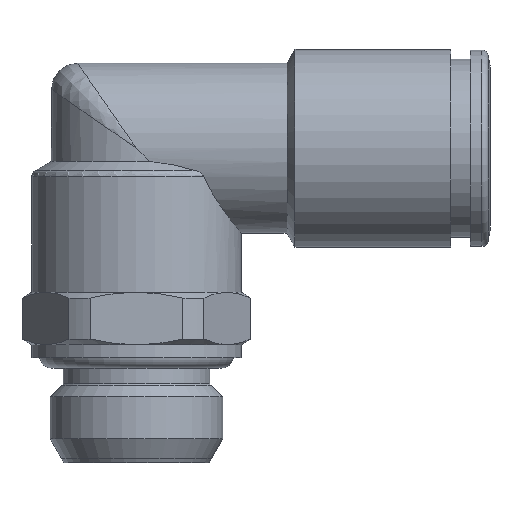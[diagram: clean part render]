
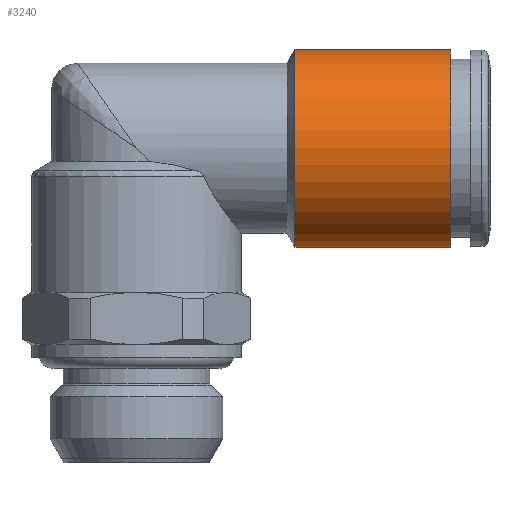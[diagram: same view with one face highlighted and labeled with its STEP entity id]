
A CAD part, front view. The second image highlights one B-rep face of the part: STEP entity #3240.
In plain terms, the highlighted cylindrical face has radius 7.55 mm (diameter 15.1 mm), a full revolution.
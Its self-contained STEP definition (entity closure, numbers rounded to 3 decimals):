
#3240=ADVANCED_FACE('', (#3250,#3260), #3270, .T.);
#9260=AXIS2_PLACEMENT_3D('Ax2Pl3d', #9270, #9280, #9290);
#10620=AXIS2_PLACEMENT_3D('Ax2Pl3d', #10630, #10640, #10650);
#10660=AXIS2_PLACEMENT_3D('Ax2Pl3d', #10670, #10680, #10690);
#9270=CARTESIAN_POINT('HicPkt', (39.247,17.943,
28.169));
#23770=CARTESIAN_POINT('', (39.247,17.943,35.719));
#10630=CARTESIAN_POINT('HicPkt', (27.353,17.943,
28.169));
#10670=CARTESIAN_POINT('HicPkt', (27.353,17.943,
28.169));
#23980=CARTESIAN_POINT('', (27.353,17.943,35.719));
#24680=CIRCLE('Circle', #9260, 7.55);
#24840=CIRCLE('Circle', #10660, 7.55);
#3270=CYLINDRICAL_SURFACE('Zyl', #10620, 7.55);
#9280=DIRECTION('Axis', (-1.,0.,0.))
;
#9290=DIRECTION('RefDirection', (0.,
0.,-1.));
#10640=DIRECTION('Axis', (1.,0.,0.));
#10650=DIRECTION('RefDirection', (0.,0.,-1.));
#10680=DIRECTION('Axis', (-1.,0.,0.)
);
#10690=DIRECTION('RefDirection', (0.,
0.,-1.));
#30900=EDGE_CURVE('', #30910, #30910, #24680, .T.);
#31450=EDGE_CURVE('', #31460, #31460, #24840, .T.);
#35500=EDGE_LOOP('Edge_loop', (#35510));
#35520=EDGE_LOOP('Edge_loop', (#35530));
#3260=FACE_BOUND('', #35520, .T.);
#3250=FACE_OUTER_BOUND('Face_outer_bound', #35500, .T.);
#35510=ORIENTED_EDGE('', *, *, #30900, .T.);
#35530=ORIENTED_EDGE('', *, *, #31450, .F.);
#30910=VERTEX_POINT('', #23770);
#31460=VERTEX_POINT('', #23980);
